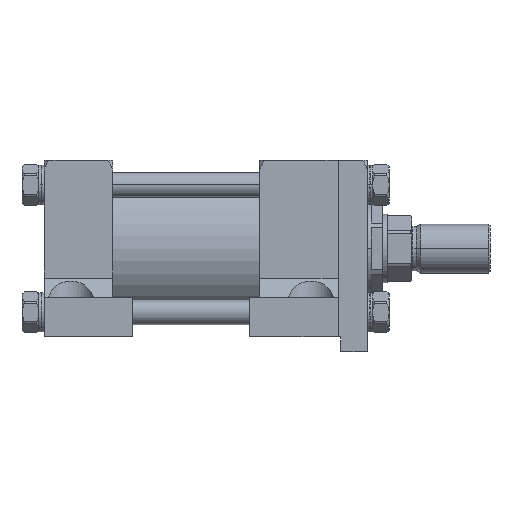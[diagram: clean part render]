
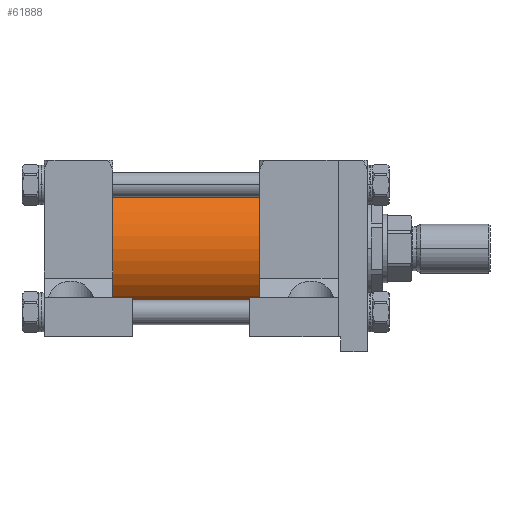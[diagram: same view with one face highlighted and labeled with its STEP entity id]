
A CAD part, front view. The second image highlights one B-rep face of the part: STEP entity #61888.
In plain terms, the highlighted cylindrical face has radius 47.625 mm (diameter 95.25 mm), a partial arc.
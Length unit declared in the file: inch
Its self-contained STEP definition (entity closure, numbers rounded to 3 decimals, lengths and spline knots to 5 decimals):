
#1382 = EDGE_LOOP ( 'NONE', ( #54103, #41396, #5884, #49541 ) ) ;
#1623 = CARTESIAN_POINT ( 'NONE',  ( -7.875, 0., 0. ) ) ;
#1862 = EDGE_CURVE ( 'NONE', #51928, #48477, #13601, .T. ) ;
#5884 = ORIENTED_EDGE ( 'NONE', *, *, #1862, .T. ) ;
#6234 = CARTESIAN_POINT ( 'NONE',  ( -7.875, 0., 1.875 ) ) ;
#8071 = CYLINDRICAL_SURFACE ( 'NONE', #52044, 1.875 ) ;
#8988 = EDGE_CURVE ( 'NONE', #41720, #48477, #37844, .T. ) ;
#10915 = LINE ( 'NONE', #30699, #53787 ) ;
#11413 = DIRECTION ( 'NONE',  ( 1., 0., 0. ) ) ;
#12586 = DIRECTION ( 'NONE',  ( 1., 0., 0. ) ) ;
#13601 = LINE ( 'NONE', #48275, #42965 ) ;
#14622 = CARTESIAN_POINT ( 'NONE',  ( -3.625, 0., -1.875 ) ) ;
#20217 = AXIS2_PLACEMENT_3D ( 'NONE', #21983, #12586, #47250 ) ;
#21983 = CARTESIAN_POINT ( 'NONE',  ( -3.625, 0., 0. ) ) ;
#23978 = CARTESIAN_POINT ( 'NONE',  ( -7.875, 0., 0. ) ) ;
#30699 = CARTESIAN_POINT ( 'NONE',  ( -7.875, 0., 1.875 ) ) ;
#31193 = DIRECTION ( 'NONE',  ( 0., 1., 0. ) ) ;
#37844 = CIRCLE ( 'NONE', #20217, 1.875 ) ;
#38543 = DIRECTION ( 'NONE',  ( 1., 0., 0. ) ) ;
#38785 = AXIS2_PLACEMENT_3D ( 'NONE', #1623, #11413, #31193 ) ;
#38845 = FACE_OUTER_BOUND ( 'NONE', #1382, .T. ) ;
#41396 = ORIENTED_EDGE ( 'NONE', *, *, #50138, .T. ) ;
#41720 = VERTEX_POINT ( 'NONE', #55207 ) ;
#42200 = EDGE_CURVE ( 'NONE', #44410, #41720, #10915, .T. ) ;
#42759 = DIRECTION ( 'NONE',  ( 0., 0., -1. ) ) ;
#42965 = VECTOR ( 'NONE', #38543, 39.37008 ) ;
#44410 = VERTEX_POINT ( 'NONE', #6234 ) ;
#46020 = CIRCLE ( 'NONE', #38785, 1.875 ) ;
#47250 = DIRECTION ( 'NONE',  ( 0., 1., 0. ) ) ;
#48275 = CARTESIAN_POINT ( 'NONE',  ( -7.875, 0., -1.875 ) ) ;
#48477 = VERTEX_POINT ( 'NONE', #14622 ) ;
#48868 = CARTESIAN_POINT ( 'NONE',  ( -7.875, 0., -1.875 ) ) ;
#49541 = ORIENTED_EDGE ( 'NONE', *, *, #8988, .F. ) ;
#50138 = EDGE_CURVE ( 'NONE', #44410, #51928, #46020, .T. ) ;
#51928 = VERTEX_POINT ( 'NONE', #48868 ) ;
#52044 = AXIS2_PLACEMENT_3D ( 'NONE', #23978, #53174, #42759 ) ;
#53174 = DIRECTION ( 'NONE',  ( 1., 0., 0. ) ) ;
#53787 = VECTOR ( 'NONE', #64086, 39.37008 ) ;
#54103 = ORIENTED_EDGE ( 'NONE', *, *, #42200, .F. ) ;
#55207 = CARTESIAN_POINT ( 'NONE',  ( -3.625, 0., 1.875 ) ) ;
#61888 = ADVANCED_FACE ( 'NONE', ( #38845 ), #8071, .T. ) ;
#64086 = DIRECTION ( 'NONE',  ( 1., 0., 0. ) ) ;
